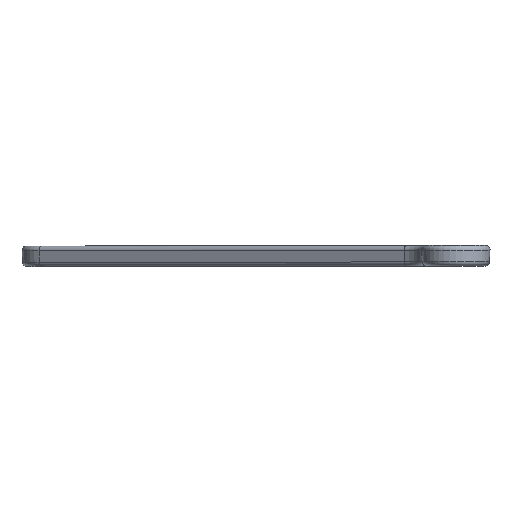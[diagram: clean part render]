
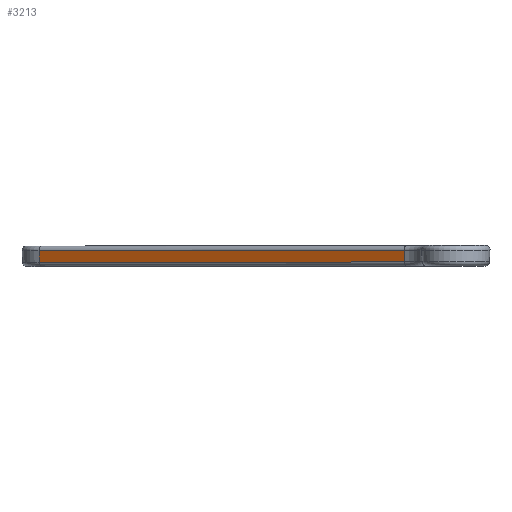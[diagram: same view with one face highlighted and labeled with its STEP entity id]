
A CAD part, top view. The second image highlights one B-rep face of the part: STEP entity #3213.
In plain terms, the highlighted planar face has unit normal (-0.499, -0.052, 0.865).
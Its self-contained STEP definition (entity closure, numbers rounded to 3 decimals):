
#950 = EDGE_CURVE ( 'NONE', #4890, #3797, #7606, .T. ) ;
#995 = CARTESIAN_POINT ( 'NONE',  ( 21.82, 3.843, -37.794 ) ) ;
#1171 = ORIENTED_EDGE ( 'NONE', *, *, #950, .T. ) ;
#1172 = CARTESIAN_POINT ( 'NONE',  ( -285.484, -4.157, -215.7 ) ) ;
#1183 = DIRECTION ( 'NONE',  ( 0.866, 0., 0.5 ) ) ;
#1504 = VERTEX_POINT ( 'NONE', #5044 ) ;
#1947 = EDGE_CURVE ( 'NONE', #3797, #4712, #4920, .T. ) ;
#1955 = EDGE_CURVE ( 'NONE', #4890, #1504, #5093, .T. ) ;
#1973 = EDGE_CURVE ( 'NONE', #4712, #1504, #7192, .T. ) ;
#2277 = DIRECTION ( 'NONE',  ( 0.026, -0.999, -0.045 ) ) ;
#2312 = CARTESIAN_POINT ( 'NONE',  ( -285.488, -4., -215.693 ) ) ;
#2320 = CARTESIAN_POINT ( 'NONE',  ( -35.246, -4.157, -71.225 ) ) ;
#2339 = CARTESIAN_POINT ( 'NONE',  ( -35.25, -4., -71.218 ) ) ;
#2346 = DIRECTION ( 'NONE',  ( 0.026, -0.999, -0.045 ) ) ;
#2417 = DIRECTION ( 'NONE',  ( 0.866, 0., 0.5 ) ) ;
#2997 = ORIENTED_EDGE ( 'NONE', *, *, #1955, .F. ) ;
#3213 = ADVANCED_FACE ( 'NONE', ( #5377 ), #4732, .T. ) ;
#3797 = VERTEX_POINT ( 'NONE', #4092 ) ;
#3923 = EDGE_LOOP ( 'NONE', ( #2997, #1171, #4797, #6142 ) ) ;
#4092 = CARTESIAN_POINT ( 'NONE',  ( -285.694, 3.843, -215.337 ) ) ;
#4596 = VECTOR ( 'NONE', #2417, 1000. ) ;
#4697 = VECTOR ( 'NONE', #2346, 1000. ) ;
#4712 = VERTEX_POINT ( 'NONE', #1172 ) ;
#4732 = PLANE ( 'NONE',  #7383 ) ;
#4797 = ORIENTED_EDGE ( 'NONE', *, *, #1947, .T. ) ;
#4845 = VECTOR ( 'NONE', #2277, 1000. ) ;
#4890 = VERTEX_POINT ( 'NONE', #5470 ) ;
#4920 = LINE ( 'NONE', #2312, #4845 ) ;
#5044 = CARTESIAN_POINT ( 'NONE',  ( -35.246, -4.157, -71.225 ) ) ;
#5093 = LINE ( 'NONE', #2339, #4697 ) ;
#5377 = FACE_OUTER_BOUND ( 'NONE', #3923, .T. ) ;
#5400 = DIRECTION ( 'NONE',  ( -0.866, 0., -0.5 ) ) ;
#5470 = CARTESIAN_POINT ( 'NONE',  ( -35.456, 3.843, -70.862 ) ) ;
#5533 = DIRECTION ( 'NONE',  ( -0.499, -0.052, 0.865 ) ) ;
#5549 = CARTESIAN_POINT ( 'NONE',  ( 22.026, -4., -38.15 ) ) ;
#6142 = ORIENTED_EDGE ( 'NONE', *, *, #1973, .T. ) ;
#7192 = LINE ( 'NONE', #2320, #4596 ) ;
#7383 = AXIS2_PLACEMENT_3D ( 'NONE', #5549, #5533, #1183 ) ;
#7606 = LINE ( 'NONE', #995, #7765 ) ;
#7765 = VECTOR ( 'NONE', #5400, 1000. ) ;
